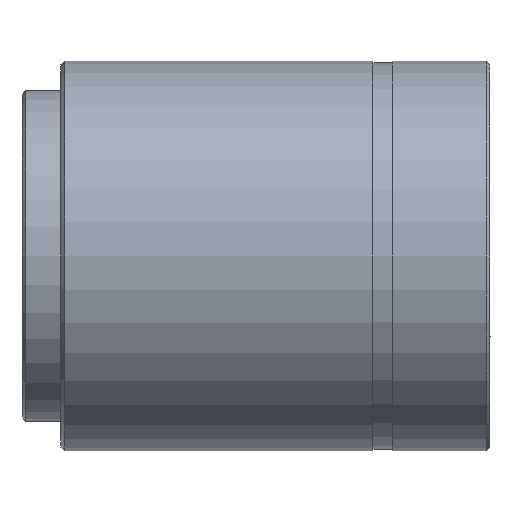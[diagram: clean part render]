
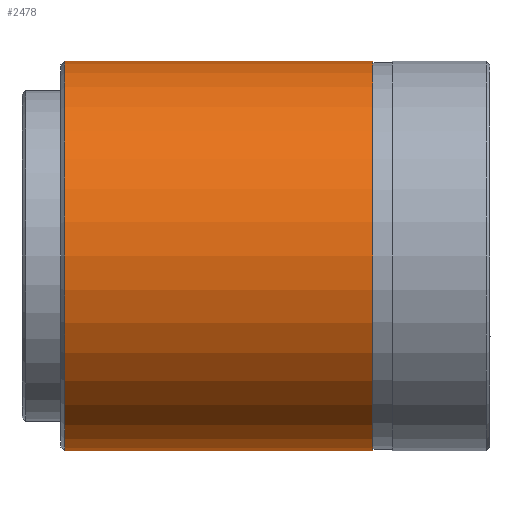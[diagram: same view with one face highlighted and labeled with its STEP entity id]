
A CAD part, left-side view. The second image highlights one B-rep face of the part: STEP entity #2478.
In plain terms, the highlighted cylindrical face has radius 5 mm (diameter 10 mm), a partial arc.
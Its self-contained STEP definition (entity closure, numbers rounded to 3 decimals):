
#247 = DIRECTION ( 'NONE',  ( 0., 1., 0. ) ) ;
#273 = CARTESIAN_POINT ( 'NONE',  ( 0., -3., 0. ) ) ;
#340 = EDGE_CURVE ( 'NONE', #2757, #1086, #4649, .T. ) ;
#374 = EDGE_CURVE ( 'NONE', #2184, #1086, #1399, .T. ) ;
#404 = FACE_OUTER_BOUND ( 'NONE', #558, .T. ) ;
#558 = EDGE_LOOP ( 'NONE', ( #2858, #2986, #2762, #2924 ) ) ;
#610 = CARTESIAN_POINT ( 'NONE',  ( 0., 4.9, 0. ) ) ;
#660 = CARTESIAN_POINT ( 'NONE',  ( 0., 4.9, 5. ) ) ;
#805 = DIRECTION ( 'NONE',  ( 0., 1., 0. ) ) ;
#809 = VECTOR ( 'NONE', #4632, 1000. ) ;
#1086 = VERTEX_POINT ( 'NONE', #2335 ) ;
#1237 = DIRECTION ( 'NONE',  ( 0., 0., 1. ) ) ;
#1298 = VECTOR ( 'NONE', #4665, 1000. ) ;
#1313 = CARTESIAN_POINT ( 'NONE',  ( 0., 6., -5. ) ) ;
#1399 = LINE ( 'NONE', #1313, #809 ) ;
#1863 = AXIS2_PLACEMENT_3D ( 'NONE', #610, #1882, #2296 ) ;
#1882 = DIRECTION ( 'NONE',  ( 0., -1., 0. ) ) ;
#1941 = DIRECTION ( 'NONE',  ( 0., 0., 1. ) ) ;
#2108 = CIRCLE ( 'NONE', #2909, 5. ) ;
#2184 = VERTEX_POINT ( 'NONE', #3154 ) ;
#2296 = DIRECTION ( 'NONE',  ( 0., 0., 1. ) ) ;
#2335 = CARTESIAN_POINT ( 'NONE',  ( 0., 4.9, -5. ) ) ;
#2478 = ADVANCED_FACE ( 'NONE', ( #404 ), #4561, .T. ) ;
#2659 = CARTESIAN_POINT ( 'NONE',  ( 0., 6., 5. ) ) ;
#2757 = VERTEX_POINT ( 'NONE', #660 ) ;
#2762 = ORIENTED_EDGE ( 'NONE', *, *, #4115, .T. ) ;
#2773 = VERTEX_POINT ( 'NONE', #4011 ) ;
#2858 = ORIENTED_EDGE ( 'NONE', *, *, #374, .F. ) ;
#2909 = AXIS2_PLACEMENT_3D ( 'NONE', #273, #247, #1941 ) ;
#2924 = ORIENTED_EDGE ( 'NONE', *, *, #340, .T. ) ;
#2986 = ORIENTED_EDGE ( 'NONE', *, *, #4574, .T. ) ;
#3018 = AXIS2_PLACEMENT_3D ( 'NONE', #4996, #805, #1237 ) ;
#3154 = CARTESIAN_POINT ( 'NONE',  ( 0., -3., -5. ) ) ;
#3448 = LINE ( 'NONE', #2659, #1298 ) ;
#4011 = CARTESIAN_POINT ( 'NONE',  ( 0., -3., 5. ) ) ;
#4115 = EDGE_CURVE ( 'NONE', #2773, #2757, #3448, .T. ) ;
#4561 = CYLINDRICAL_SURFACE ( 'NONE', #3018, 5. ) ;
#4574 = EDGE_CURVE ( 'NONE', #2184, #2773, #2108, .T. ) ;
#4632 = DIRECTION ( 'NONE',  ( 0., 1., 0. ) ) ;
#4649 = CIRCLE ( 'NONE', #1863, 5. ) ;
#4665 = DIRECTION ( 'NONE',  ( 0., 1., 0. ) ) ;
#4996 = CARTESIAN_POINT ( 'NONE',  ( 0., 6., 0. ) ) ;
